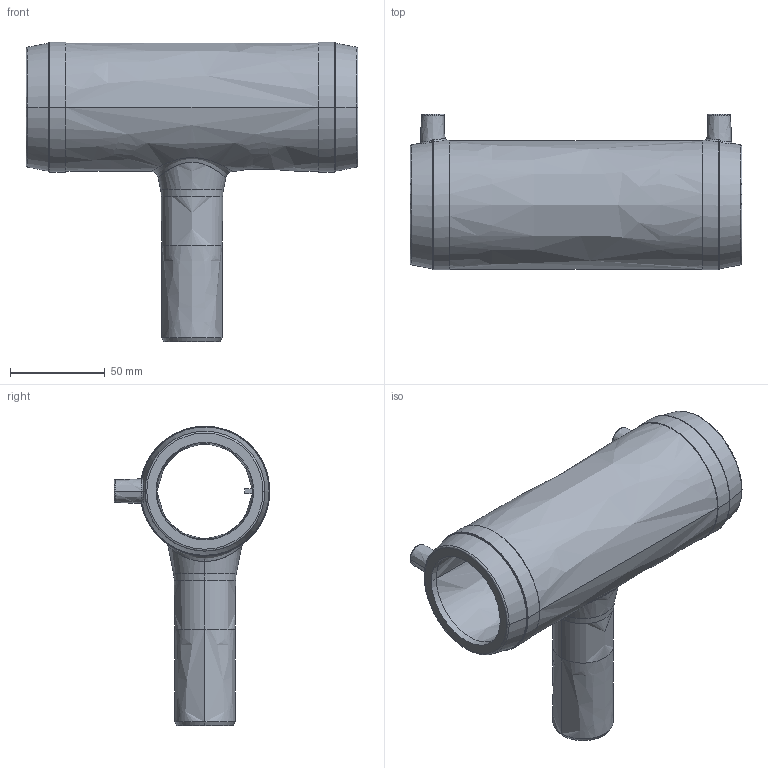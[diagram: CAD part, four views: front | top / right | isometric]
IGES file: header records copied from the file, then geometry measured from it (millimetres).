
Start section:  PTC IGES file: ta_red_d50-32_01.igs
Global section: file name: ta_red_d50-32_01.igs; native system: Pro/ENGINEER by Parametric Technology Corporation; preprocessor: 2011490; author: mtunjic; organization: Unknown; date: 20130812.131531; units: millimetre
Bounding box: 175 x 82.05 x 157.93 mm (x, y, z)
Surface area: 85367.4 mm2 (no closed solid volume)
Topology: 0 solids, 0 shells, 208 faces, 1016 edges, 1016 vertices
Faces by surface type: bspline 208
